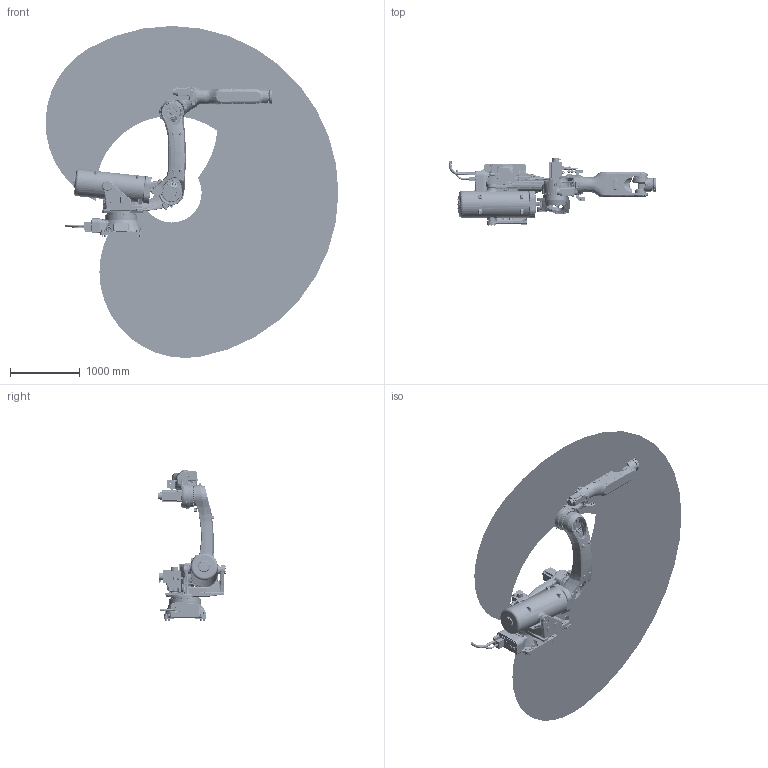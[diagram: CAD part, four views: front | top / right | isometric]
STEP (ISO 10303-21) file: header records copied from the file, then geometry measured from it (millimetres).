
FILE_DESCRIPTION(/* description */ (''),/* implementation_level */ '2;1');
FILE_NAME(/* name */ 'NB220r-15031 简化模型（20250925）.stp',/* time_stamp */ '2025-09-25T10:37:38+08:00',/* author */ (''),/* organization */ (''),/* preprocessor_version */ 'ST-DEVELOPER v16',/* originating_system */ 'SIEMENS PLM Software NX 10.0',/* authorisation */ '');
FILE_SCHEMA (('CONFIG_CONTROL_DESIGN'));
Products named in the file (13): ROKAE标识1.5倍; NB220r-15031-xiaobiqian-A; NB220r-15031-3Dwork-A; NB220r-15031-shouwan-A; NB220r-15031-lagan-A; NB220r-15031-gang-A; NB220r-15031-base-A; NB220r-15031-yao-A; NB220r-15031-xiaobihou-A; NB220r-15031-shuchu-A; NB220r-15031-dabi-A; NB220r-15031-xiaobiqian-Alogo; NB220r-15031 简化模型（20250925）
Assembly tree (13 placements, depth 3):
  NB220r-15031 简化模型（20250925）
    NB220r-15031-dabi-A
    NB220r-15031-xiaobiqian-Alogo
      NB220r-15031-xiaobiqian-A
      ROKAE标识1.5倍  x2
    NB220r-15031-shuchu-A
    NB220r-15031-xiaobihou-A
    NB220r-15031-yao-A
    NB220r-15031-base-A
    NB220r-15031-gang-A
    NB220r-15031-lagan-A
    NB220r-15031-shouwan-A
    NB220r-15031-3Dwork-A
Bounding box: 4183.79 x 958 x 4743.06 mm (x, y, z)
Volume: 418896563.5 mm3; surface area: 25870060.8 mm2
Topology: 25 solids, 83 shells, 9318 faces, 22278 edges, 13628 vertices
Faces by surface type: plane 3313, cylinder 2427, bspline 2083, torus 719, cone 648, sphere 104, extrusion 24
Full cylindrical faces by diameter (mm): 2.874 x8, 5 x38, 5.795 x19, 6 x6, 6.5 x11, 6.6 x4, 6.8 x4, 7 x28, 8 x2, 8.5 x19, 8.75 x8, 8.839 x2, 9.818 x1, 10 x63, 10.3 x39, 11 x2, 11.05 x20, 11.2 x2, 11.701 x27, 12 x3, 13 x36, 13.5 x27, 13.629 x1, 14 x5, 16 x34, 17.5 x13, 18 x110, 20 x14, 20.685 x2, 22 x1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
Entity records: 408220 total; most frequent: CARTESIAN_POINT 213669, ORIENTED_EDGE 40528, DIRECTION 37007, EDGE_CURVE 20267, AXIS2_PLACEMENT_3D 14604, VERTEX_POINT 13115, EDGE_LOOP 11255, ADVANCED_FACE 9231
